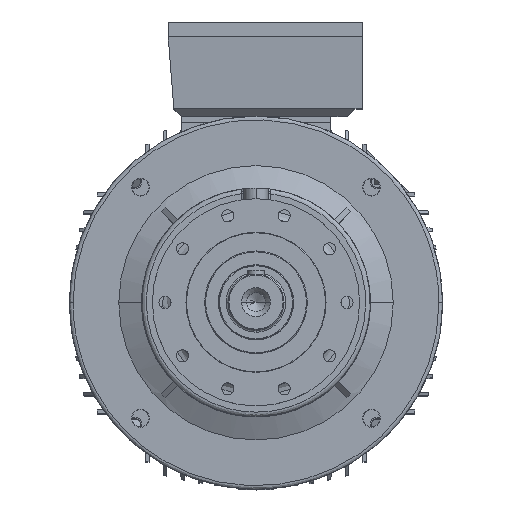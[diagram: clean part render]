
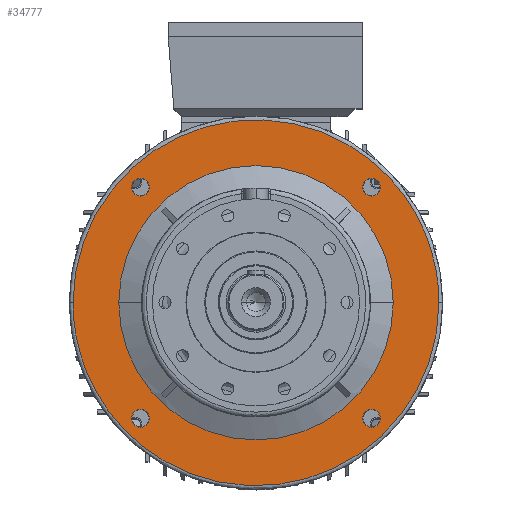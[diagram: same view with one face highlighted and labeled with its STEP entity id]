
A CAD part, top view. The second image highlights one B-rep face of the part: STEP entity #34777.
In plain terms, the highlighted planar face has unit normal (0, 0, 1).
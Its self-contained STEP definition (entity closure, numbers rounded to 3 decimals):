
#1551 =( BOUNDED_CURVE ( )  B_SPLINE_CURVE ( 3, ( #79122, #79125, #79290, #79232 ),
 .UNSPECIFIED., .F., .F. ) 
 B_SPLINE_CURVE_WITH_KNOTS ( ( 4, 4 ),
 ( 0., 0.5 ),
 .UNSPECIFIED. ) 
 CURVE ( )  GEOMETRIC_REPRESENTATION_ITEM ( )  RATIONAL_B_SPLINE_CURVE ( ( 1., 0.333, 0.333, 1. ) ) 
 REPRESENTATION_ITEM ( '' )  );
#1596 =( BOUNDED_CURVE ( )  B_SPLINE_CURVE ( 3, ( #19268, #19264, #19250, #19225 ),
 .UNSPECIFIED., .F., .F. ) 
 B_SPLINE_CURVE_WITH_KNOTS ( ( 4, 4 ),
 ( 0.5, 1. ),
 .UNSPECIFIED. ) 
 CURVE ( )  GEOMETRIC_REPRESENTATION_ITEM ( )  RATIONAL_B_SPLINE_CURVE ( ( 1., 0.333, 0.333, 1. ) ) 
 REPRESENTATION_ITEM ( '' )  );
#9037 = VERTEX_POINT ( 'NONE', #94806 ) ;
#9074 = VERTEX_POINT ( 'NONE', #94800 ) ;
#9543 = VERTEX_POINT ( 'NONE', #94918 ) ;
#9546 = VERTEX_POINT ( 'NONE', #94916 ) ;
#9561 = VERTEX_POINT ( 'NONE', #94947 ) ;
#9579 = VERTEX_POINT ( 'NONE', #95037 ) ;
#9586 = VERTEX_POINT ( 'NONE', #95029 ) ;
#9739 = VERTEX_POINT ( 'NONE', #95022 ) ;
#9765 = VERTEX_POINT ( 'NONE', #94992 ) ;
#9782 = VERTEX_POINT ( 'NONE', #95006 ) ;
#9790 = VERTEX_POINT ( 'NONE', #95034 ) ;
#9805 = VERTEX_POINT ( 'NONE', #94985 ) ;
#11889 = EDGE_LOOP ( 'NONE', ( #46057, #46127 ) ) ;
#11903 = EDGE_LOOP ( 'NONE', ( #46037, #46025 ) ) ;
#11916 = EDGE_LOOP ( 'NONE', ( #46121, #46081 ) ) ;
#11974 = EDGE_LOOP ( 'NONE', ( #46103, #46093 ) ) ;
#12029 = EDGE_LOOP ( 'NONE', ( #46083, #46085 ) ) ;
#12041 = EDGE_LOOP ( 'NONE', ( #46107, #46075 ) ) ;
#14069 = CIRCLE ( 'NONE', #76743, 9.5 ) ;
#14079 = CIRCLE ( 'NONE', #76753, 147. ) ;
#14245 = CIRCLE ( 'NONE', #76733, 9.5 ) ;
#14282 = CIRCLE ( 'NONE', #76741, 9.5 ) ;
#14330 = CIRCLE ( 'NONE', #76762, 9.5 ) ;
#18651 = FACE_BOUND ( 'NONE', #11916, .T. ) ;
#18653 = FACE_BOUND ( 'NONE', #11889, .T. ) ;
#18675 = FACE_BOUND ( 'NONE', #11974, .T. ) ;
#18696 = FACE_BOUND ( 'NONE', #12029, .T. ) ;
#18709 = FACE_BOUND ( 'NONE', #11903, .T. ) ;
#18726 = FACE_OUTER_BOUND ( 'NONE', #12041, .T. ) ;
#19038 = DIRECTION ( 'NONE',  ( 0., 0., -1. ) ) ;
#19051 = CARTESIAN_POINT ( 'NONE',  ( -123.744, -123.744, -116.5 ) ) ;
#19066 = DIRECTION ( 'NONE',  ( -1., 0., 0. ) ) ;
#19157 = DIRECTION ( 'NONE',  ( -1., 0., 0. ) ) ;
#19164 = CARTESIAN_POINT ( 'NONE',  ( 0., 0., -116.5 ) ) ;
#19166 = DIRECTION ( 'NONE',  ( 0., 0., -1. ) ) ;
#19201 = CARTESIAN_POINT ( 'NONE',  ( 123.744, -123.744, -116.5 ) ) ;
#19202 = DIRECTION ( 'NONE',  ( 0., 0., -1. ) ) ;
#19203 = DIRECTION ( 'NONE',  ( 0., 1., 0. ) ) ;
#19221 = DIRECTION ( 'NONE',  ( 0., 0., -1. ) ) ;
#19223 = DIRECTION ( 'NONE',  ( -1., 0., 0. ) ) ;
#19225 = CARTESIAN_POINT ( 'NONE',  ( 196., 0., -116.5 ) ) ;
#19232 = CARTESIAN_POINT ( 'NONE',  ( 123.744, 123.744, -116.5 ) ) ;
#19250 = CARTESIAN_POINT ( 'NONE',  ( 196., 392., -116.5 ) ) ;
#19264 = CARTESIAN_POINT ( 'NONE',  ( -196., 392., -116.5 ) ) ;
#19268 = CARTESIAN_POINT ( 'NONE',  ( -196., 0., -116.5 ) ) ;
#19296 = DIRECTION ( 'NONE',  ( 0., 0., -1. ) ) ;
#19321 = DIRECTION ( 'NONE',  ( 0., 1., 0. ) ) ;
#19330 = CARTESIAN_POINT ( 'NONE',  ( -123.744, 123.744, -116.5 ) ) ;
#34777 = ADVANCED_FACE ( 'NONE', ( #18675, #18726, #18653, #18651, #18696, #18709 ), #71017, .T. ) ;
#46025 = ORIENTED_EDGE ( 'NONE', *, *, #110802, .T. ) ;
#46037 = ORIENTED_EDGE ( 'NONE', *, *, #109806, .T. ) ;
#46057 = ORIENTED_EDGE ( 'NONE', *, *, #109818, .T. ) ;
#46075 = ORIENTED_EDGE ( 'NONE', *, *, #109815, .F. ) ;
#46081 = ORIENTED_EDGE ( 'NONE', *, *, #110812, .T. ) ;
#46083 = ORIENTED_EDGE ( 'NONE', *, *, #109797, .T. ) ;
#46085 = ORIENTED_EDGE ( 'NONE', *, *, #110823, .T. ) ;
#46093 = ORIENTED_EDGE ( 'NONE', *, *, #109790, .T. ) ;
#46103 = ORIENTED_EDGE ( 'NONE', *, *, #110814, .T. ) ;
#46107 = ORIENTED_EDGE ( 'NONE', *, *, #110470, .F. ) ;
#46121 = ORIENTED_EDGE ( 'NONE', *, *, #109762, .T. ) ;
#46127 = ORIENTED_EDGE ( 'NONE', *, *, #110780, .T. ) ;
#70927 = DIRECTION ( 'NONE',  ( 0., 0., 1. ) ) ;
#70954 = CARTESIAN_POINT ( 'NONE',  ( 0., 147., -116.5 ) ) ;
#71017 = PLANE ( 'NONE',  #93592 ) ;
#71032 = DIRECTION ( 'NONE',  ( 1., 0., 0. ) ) ;
#75138 = AXIS2_PLACEMENT_3D ( 'NONE', #85036, #85044, #85047 ) ;
#75144 = AXIS2_PLACEMENT_3D ( 'NONE', #84893, #84857, #84833 ) ;
#75160 = AXIS2_PLACEMENT_3D ( 'NONE', #85231, #85255, #85303 ) ;
#75166 = AXIS2_PLACEMENT_3D ( 'NONE', #85165, #85102, #85079 ) ;
#75167 = AXIS2_PLACEMENT_3D ( 'NONE', #85161, #85168, #85171 ) ;
#76733 = AXIS2_PLACEMENT_3D ( 'NONE', #19330, #19296, #19321 ) ;
#76741 = AXIS2_PLACEMENT_3D ( 'NONE', #19232, #19221, #19223 ) ;
#76743 = AXIS2_PLACEMENT_3D ( 'NONE', #19051, #19038, #19066 ) ;
#76753 = AXIS2_PLACEMENT_3D ( 'NONE', #19164, #19166, #19157 ) ;
#76762 = AXIS2_PLACEMENT_3D ( 'NONE', #19201, #19202, #19203 ) ;
#79122 = CARTESIAN_POINT ( 'NONE',  ( 196., 0., -116.5 ) ) ;
#79125 = CARTESIAN_POINT ( 'NONE',  ( 196., -392., -116.5 ) ) ;
#79232 = CARTESIAN_POINT ( 'NONE',  ( -196., 0., -116.5 ) ) ;
#79290 = CARTESIAN_POINT ( 'NONE',  ( -196., -392., -116.5 ) ) ;
#83036 = CIRCLE ( 'NONE', #75144, 9.5 ) ;
#83147 = CIRCLE ( 'NONE', #75167, 147. ) ;
#83241 = CIRCLE ( 'NONE', #75138, 9.5 ) ;
#83265 = CIRCLE ( 'NONE', #75166, 9.5 ) ;
#83304 = CIRCLE ( 'NONE', #75160, 9.5 ) ;
#84833 = DIRECTION ( 'NONE',  ( 0., 1., 0. ) ) ;
#84857 = DIRECTION ( 'NONE',  ( 0., 0., -1. ) ) ;
#84893 = CARTESIAN_POINT ( 'NONE',  ( -123.744, 123.744, -116.5 ) ) ;
#85036 = CARTESIAN_POINT ( 'NONE',  ( 123.744, 123.744, -116.5 ) ) ;
#85044 = DIRECTION ( 'NONE',  ( 0., 0., -1. ) ) ;
#85047 = DIRECTION ( 'NONE',  ( -1., 0., 0. ) ) ;
#85079 = DIRECTION ( 'NONE',  ( -1., 0., 0. ) ) ;
#85102 = DIRECTION ( 'NONE',  ( 0., 0., -1. ) ) ;
#85161 = CARTESIAN_POINT ( 'NONE',  ( 0., 0., -116.5 ) ) ;
#85165 = CARTESIAN_POINT ( 'NONE',  ( -123.744, -123.744, -116.5 ) ) ;
#85168 = DIRECTION ( 'NONE',  ( 0., 0., -1. ) ) ;
#85171 = DIRECTION ( 'NONE',  ( -1., 0., 0. ) ) ;
#85231 = CARTESIAN_POINT ( 'NONE',  ( 123.744, -123.744, -116.5 ) ) ;
#85255 = DIRECTION ( 'NONE',  ( 0., 0., -1. ) ) ;
#85303 = DIRECTION ( 'NONE',  ( 0., 1., 0. ) ) ;
#93592 = AXIS2_PLACEMENT_3D ( 'NONE', #70954, #70927, #71032 ) ;
#94800 = CARTESIAN_POINT ( 'NONE',  ( -196., 0., -116.5 ) ) ;
#94806 = CARTESIAN_POINT ( 'NONE',  ( 196., 0., -116.5 ) ) ;
#94916 = CARTESIAN_POINT ( 'NONE',  ( -114.244, -123.744, -116.5 ) ) ;
#94918 = CARTESIAN_POINT ( 'NONE',  ( -123.744, 133.244, -116.5 ) ) ;
#94947 = CARTESIAN_POINT ( 'NONE',  ( -123.744, 114.244, -116.5 ) ) ;
#94985 = CARTESIAN_POINT ( 'NONE',  ( 123.744, -114.244, -116.5 ) ) ;
#94992 = CARTESIAN_POINT ( 'NONE',  ( 133.244, 123.744, -116.5 ) ) ;
#95006 = CARTESIAN_POINT ( 'NONE',  ( 114.244, 123.744, -116.5 ) ) ;
#95022 = CARTESIAN_POINT ( 'NONE',  ( -147., 0., -116.5 ) ) ;
#95029 = CARTESIAN_POINT ( 'NONE',  ( 123.744, -133.244, -116.5 ) ) ;
#95034 = CARTESIAN_POINT ( 'NONE',  ( 147., 0., -116.5 ) ) ;
#95037 = CARTESIAN_POINT ( 'NONE',  ( -133.244, -123.744, -116.5 ) ) ;
#109762 = EDGE_CURVE ( 'NONE', #9579, #9546, #14069, .T. ) ;
#109790 = EDGE_CURVE ( 'NONE', #9790, #9739, #14079, .T. ) ;
#109797 = EDGE_CURVE ( 'NONE', #9805, #9586, #14330, .T. ) ;
#109806 = EDGE_CURVE ( 'NONE', #9782, #9765, #14282, .T. ) ;
#109815 = EDGE_CURVE ( 'NONE', #9074, #9037, #1596, .T. ) ;
#109818 = EDGE_CURVE ( 'NONE', #9543, #9561, #14245, .T. ) ;
#110470 = EDGE_CURVE ( 'NONE', #9037, #9074, #1551, .T. ) ;
#110780 = EDGE_CURVE ( 'NONE', #9561, #9543, #83036, .T. ) ;
#110802 = EDGE_CURVE ( 'NONE', #9765, #9782, #83241, .T. ) ;
#110812 = EDGE_CURVE ( 'NONE', #9546, #9579, #83265, .T. ) ;
#110814 = EDGE_CURVE ( 'NONE', #9739, #9790, #83147, .T. ) ;
#110823 = EDGE_CURVE ( 'NONE', #9586, #9805, #83304, .T. ) ;
